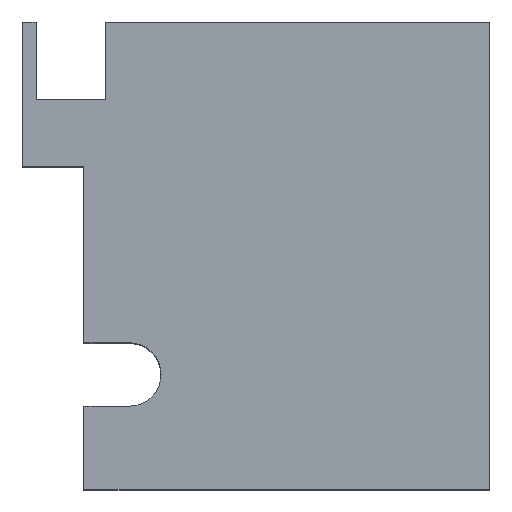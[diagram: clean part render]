
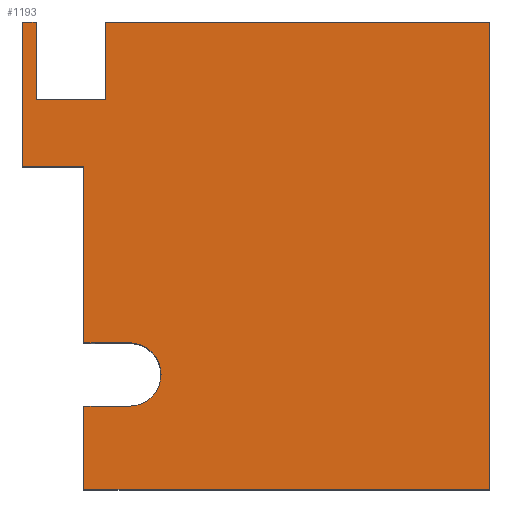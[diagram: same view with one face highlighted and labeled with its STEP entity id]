
A CAD part, top view. The second image highlights one B-rep face of the part: STEP entity #1193.
In plain terms, the highlighted planar face has unit normal (0, 0, 1).
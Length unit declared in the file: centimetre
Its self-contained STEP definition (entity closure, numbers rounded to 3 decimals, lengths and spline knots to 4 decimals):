
#6 = LINE ( 'NONE', #1045, #1312 ) ;
#13 = VECTOR ( 'NONE', #355, 100. ) ;
#34 = CARTESIAN_POINT ( 'NONE',  ( 228.9311, 313.3369, 1000. ) ) ;
#59 = CARTESIAN_POINT ( 'NONE',  ( 29.5988, 835.1194, 1000. ) ) ;
#60 = ORIENTED_EDGE ( 'NONE', *, *, #1093, .T. ) ;
#85 = CARTESIAN_POINT ( 'NONE',  ( 1000., 0., 1000. ) ) ;
#92 = CARTESIAN_POINT ( 'NONE',  ( 177.5993, 1000., 1000. ) ) ;
#120 = VERTEX_POINT ( 'NONE', #157 ) ;
#125 = VECTOR ( 'NONE', #305, 100. ) ;
#136 = CARTESIAN_POINT ( 'NONE',  ( 29.5988, 835.1194, 1000. ) ) ;
#148 = CARTESIAN_POINT ( 'NONE',  ( 1000., 1000., 1000. ) ) ;
#157 = CARTESIAN_POINT ( 'NONE',  ( 228.9311, 177.694, 1000. ) ) ;
#163 = LINE ( 'NONE', #148, #486 ) ;
#174 = AXIS2_PLACEMENT_3D ( 'NONE', #240, #678, #1171 ) ;
#190 = DIRECTION ( 'NONE',  ( 1., 0., 0. ) ) ;
#203 = ORIENTED_EDGE ( 'NONE', *, *, #950, .T. ) ;
#210 = EDGE_CURVE ( 'NONE', #235, #836, #6, .T. ) ;
#228 = CARTESIAN_POINT ( 'NONE',  ( 131.7181, 691.0002, 1000. ) ) ;
#235 = VERTEX_POINT ( 'NONE', #684 ) ;
#240 = CARTESIAN_POINT ( 'NONE',  ( 228.9311, 245.5155, 1000. ) ) ;
#245 = ORIENTED_EDGE ( 'NONE', *, *, #210, .T. ) ;
#246 = EDGE_CURVE ( 'NONE', #749, #353, #1016, .T. ) ;
#266 = EDGE_CURVE ( 'NONE', #749, #235, #1436, .T. ) ;
#286 = CARTESIAN_POINT ( 'NONE',  ( 0., 0., 1000. ) ) ;
#291 = CARTESIAN_POINT ( 'NONE',  ( 131.7181, 691.0002, 1000. ) ) ;
#299 = VECTOR ( 'NONE', #675, 100. ) ;
#301 = CARTESIAN_POINT ( 'NONE',  ( 0., 691.0002, 1000. ) ) ;
#305 = DIRECTION ( 'NONE',  ( 0., -1., 0. ) ) ;
#353 = VERTEX_POINT ( 'NONE', #301 ) ;
#355 = DIRECTION ( 'NONE',  ( -1., 0., 0. ) ) ;
#366 = VERTEX_POINT ( 'NONE', #1075 ) ;
#370 = LINE ( 'NONE', #1401, #1234 ) ;
#395 = CARTESIAN_POINT ( 'NONE',  ( 0., 691.0002, 1000. ) ) ;
#440 = CARTESIAN_POINT ( 'NONE',  ( 131.7181, 177.694, 1000. ) ) ;
#459 = VECTOR ( 'NONE', #1349, 100. ) ;
#486 = VECTOR ( 'NONE', #1435, 100. ) ;
#488 = CIRCLE ( 'NONE', #174, 67.8214 ) ;
#493 = DIRECTION ( 'NONE',  ( -1., 0., 0. ) ) ;
#494 = ORIENTED_EDGE ( 'NONE', *, *, #606, .T. ) ;
#507 = VERTEX_POINT ( 'NONE', #85 ) ;
#554 = EDGE_CURVE ( 'NONE', #1427, #610, #555, .T. ) ;
#555 = LINE ( 'NONE', #1194, #459 ) ;
#575 = LINE ( 'NONE', #136, #13 ) ;
#576 = DIRECTION ( 'NONE',  ( 1., 0., 0. ) ) ;
#589 = EDGE_CURVE ( 'NONE', #810, #366, #1320, .T. ) ;
#606 = EDGE_CURVE ( 'NONE', #610, #810, #575, .T. ) ;
#610 = VERTEX_POINT ( 'NONE', #1378 ) ;
#615 = EDGE_LOOP ( 'NONE', ( #630, #203, #1379, #60, #1147, #494, #772, #1328, #799, #1003, #864, #245, #1334, #1064 ) ) ;
#621 = CARTESIAN_POINT ( 'NONE',  ( 0., 0., 1000. ) ) ;
#630 = ORIENTED_EDGE ( 'NONE', *, *, #1144, .T. ) ;
#653 = DIRECTION ( 'NONE',  ( 1., 0., 0. ) ) ;
#672 = VERTEX_POINT ( 'NONE', #1388 ) ;
#675 = DIRECTION ( 'NONE',  ( -1., 0., 0. ) ) ;
#678 = DIRECTION ( 'NONE',  ( 0., 0., -1. ) ) ;
#684 = CARTESIAN_POINT ( 'NONE',  ( 131.7181, 313.3369, 1000. ) ) ;
#749 = VERTEX_POINT ( 'NONE', #228 ) ;
#751 = VERTEX_POINT ( 'NONE', #1513 ) ;
#768 = AXIS2_PLACEMENT_3D ( 'NONE', #286, #1195, #576 ) ;
#772 = ORIENTED_EDGE ( 'NONE', *, *, #589, .T. ) ;
#774 = LINE ( 'NONE', #1643, #1611 ) ;
#799 = ORIENTED_EDGE ( 'NONE', *, *, #1273, .T. ) ;
#810 = VERTEX_POINT ( 'NONE', #1323 ) ;
#814 = DIRECTION ( 'NONE',  ( 0., -1., 0. ) ) ;
#825 = EDGE_CURVE ( 'NONE', #507, #751, #163, .T. ) ;
#836 = VERTEX_POINT ( 'NONE', #34 ) ;
#855 = VERTEX_POINT ( 'NONE', #1159 ) ;
#864 = ORIENTED_EDGE ( 'NONE', *, *, #266, .T. ) ;
#865 = VECTOR ( 'NONE', #814, 100. ) ;
#890 = VECTOR ( 'NONE', #1421, 100. ) ;
#915 = CARTESIAN_POINT ( 'NONE',  ( 131.7181, 691.0002, 1000. ) ) ;
#950 = EDGE_CURVE ( 'NONE', #672, #507, #1602, .T. ) ;
#1003 = ORIENTED_EDGE ( 'NONE', *, *, #246, .F. ) ;
#1016 = LINE ( 'NONE', #395, #299 ) ;
#1040 = DIRECTION ( 'NONE',  ( -1., 0., 0. ) ) ;
#1041 = LINE ( 'NONE', #915, #890 ) ;
#1045 = CARTESIAN_POINT ( 'NONE',  ( 228.9311, 313.3369, 1000. ) ) ;
#1060 = LINE ( 'NONE', #1327, #125 ) ;
#1064 = ORIENTED_EDGE ( 'NONE', *, *, #1505, .T. ) ;
#1069 = EDGE_CURVE ( 'NONE', #836, #120, #488, .T. ) ;
#1075 = CARTESIAN_POINT ( 'NONE',  ( 29.5988, 1000., 1000. ) ) ;
#1093 = EDGE_CURVE ( 'NONE', #751, #1427, #1258, .T. ) ;
#1104 = VECTOR ( 'NONE', #1518, 100. ) ;
#1139 = CARTESIAN_POINT ( 'NONE',  ( 0., 1000., 1000. ) ) ;
#1144 = EDGE_CURVE ( 'NONE', #1250, #672, #1041, .T. ) ;
#1147 = ORIENTED_EDGE ( 'NONE', *, *, #554, .T. ) ;
#1159 = CARTESIAN_POINT ( 'NONE',  ( 0., 1000., 1000. ) ) ;
#1171 = DIRECTION ( 'NONE',  ( 1., 0., 0. ) ) ;
#1181 = FACE_OUTER_BOUND ( 'NONE', #615, .T. ) ;
#1193 = ADVANCED_FACE ( 'NONE', ( #1181 ), #1333, .T. ) ;
#1194 = CARTESIAN_POINT ( 'NONE',  ( 177.5993, 835.1194, 1000. ) ) ;
#1195 = DIRECTION ( 'NONE',  ( 0., 0., 1. ) ) ;
#1234 = VECTOR ( 'NONE', #1040, 100. ) ;
#1250 = VERTEX_POINT ( 'NONE', #440 ) ;
#1258 = LINE ( 'NONE', #1139, #1534 ) ;
#1273 = EDGE_CURVE ( 'NONE', #855, #353, #1060, .T. ) ;
#1291 = DIRECTION ( 'NONE',  ( -1., 0., 0. ) ) ;
#1312 = VECTOR ( 'NONE', #653, 100. ) ;
#1320 = LINE ( 'NONE', #59, #1104 ) ;
#1323 = CARTESIAN_POINT ( 'NONE',  ( 29.5988, 835.1194, 1000. ) ) ;
#1327 = CARTESIAN_POINT ( 'NONE',  ( 0., 1000., 1000. ) ) ;
#1328 = ORIENTED_EDGE ( 'NONE', *, *, #1540, .T. ) ;
#1333 = PLANE ( 'NONE',  #768 ) ;
#1334 = ORIENTED_EDGE ( 'NONE', *, *, #1069, .T. ) ;
#1349 = DIRECTION ( 'NONE',  ( 0., -1., 0. ) ) ;
#1378 = CARTESIAN_POINT ( 'NONE',  ( 177.5993, 835.1194, 1000. ) ) ;
#1379 = ORIENTED_EDGE ( 'NONE', *, *, #825, .T. ) ;
#1388 = CARTESIAN_POINT ( 'NONE',  ( 131.7181, 0., 1000. ) ) ;
#1401 = CARTESIAN_POINT ( 'NONE',  ( 0., 1000., 1000. ) ) ;
#1421 = DIRECTION ( 'NONE',  ( 0., -1., 0. ) ) ;
#1427 = VERTEX_POINT ( 'NONE', #92 ) ;
#1435 = DIRECTION ( 'NONE',  ( 0., 1., 0. ) ) ;
#1436 = LINE ( 'NONE', #291, #865 ) ;
#1452 = VECTOR ( 'NONE', #190, 100. ) ;
#1505 = EDGE_CURVE ( 'NONE', #120, #1250, #774, .T. ) ;
#1513 = CARTESIAN_POINT ( 'NONE',  ( 1000., 1000., 1000. ) ) ;
#1518 = DIRECTION ( 'NONE',  ( 0., 1., 0. ) ) ;
#1534 = VECTOR ( 'NONE', #1291, 100. ) ;
#1540 = EDGE_CURVE ( 'NONE', #366, #855, #370, .T. ) ;
#1602 = LINE ( 'NONE', #621, #1452 ) ;
#1611 = VECTOR ( 'NONE', #493, 100. ) ;
#1643 = CARTESIAN_POINT ( 'NONE',  ( 98.5065, 177.694, 1000. ) ) ;
